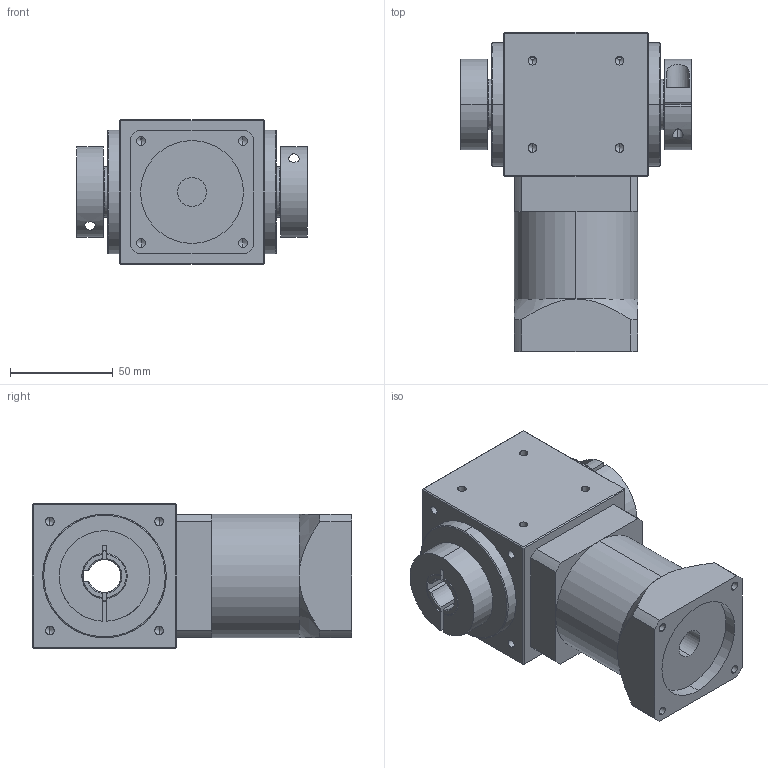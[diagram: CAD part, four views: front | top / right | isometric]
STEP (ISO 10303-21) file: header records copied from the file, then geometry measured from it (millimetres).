
FILE_DESCRIPTION (( 'STEP AP214' ), '1' );
FILE_NAME ('RXW070AS-L2-C-K--14-50-70-M5.STEP', '2020-11-21T08:38:16', ( '微软用户' ), ( '微软中国' ), 'SwSTEP 2.0', 'SolidWorks 2014', '' );
FILE_SCHEMA (( 'AUTOMOTIVE_DESIGN' ));
Length unit declared in the file: millimetre
Products named in the file (2): RXW070AS-L2-C-K--14-50-70-M5
Bounding box: 112 x 155 x 70 mm (x, y, z)
Volume: 635638.5 mm3; surface area: 79907.4 mm2
Topology: 3 solids, 3 shells, 261 faces, 667 edges, 386 vertices
Faces by surface type: cylinder 100, plane 80, cone 77, bspline 4
Entity records: 9870 total; most frequent: CARTESIAN_POINT 1832, DIRECTION 1320, ORIENTED_EDGE 1238, EDGE_CURVE 619, AXIS2_PLACEMENT_3D 510, VERTEX_POINT 386, EDGE_LOOP 303, VECTOR 300
